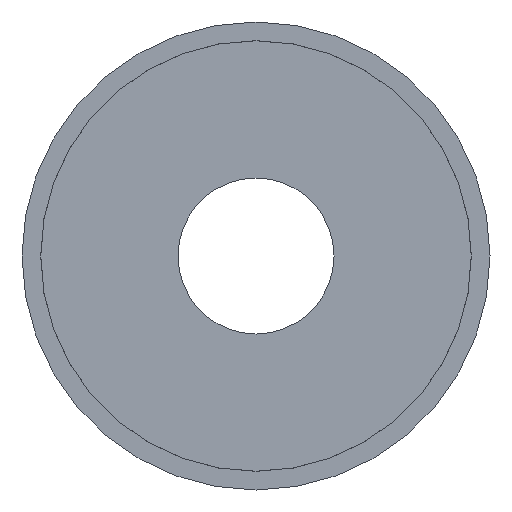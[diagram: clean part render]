
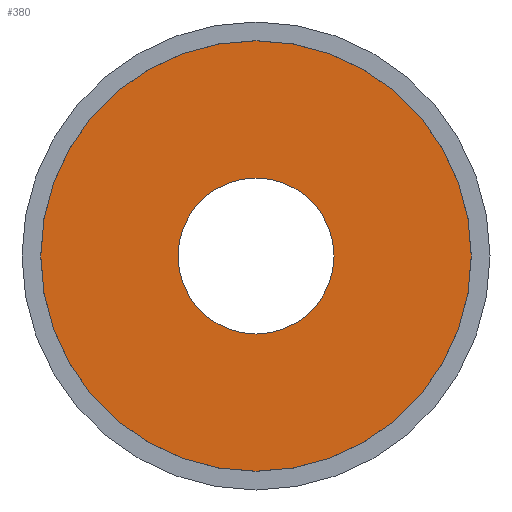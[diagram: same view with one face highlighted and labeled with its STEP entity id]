
A CAD part, front view. The second image highlights one B-rep face of the part: STEP entity #380.
In plain terms, the highlighted planar face has unit normal (0, -1, 0).
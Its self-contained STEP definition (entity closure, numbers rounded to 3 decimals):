
#3 = EDGE_CURVE ( 'NONE', #722, #521, #349, .T. ) ;
#48 = CARTESIAN_POINT ( 'NONE',  ( 0., -15., -34.49 ) ) ;
#99 = AXIS2_PLACEMENT_3D ( 'NONE', #711, #707, #467 ) ;
#102 = ORIENTED_EDGE ( 'NONE', *, *, #3, .T. ) ;
#110 = FACE_OUTER_BOUND ( 'NONE', #625, .T. ) ;
#174 = CARTESIAN_POINT ( 'NONE',  ( 0., -15., 0. ) ) ;
#197 = CIRCLE ( 'NONE', #336, 34.49 ) ;
#212 = CARTESIAN_POINT ( 'NONE',  ( 0., -15., 0. ) ) ;
#231 = DIRECTION ( 'NONE',  ( 0., -1., 0. ) ) ;
#268 = CARTESIAN_POINT ( 'NONE',  ( -37.5, -15., 0. ) ) ;
#284 = CIRCLE ( 'NONE', #390, 34.49 ) ;
#304 = ORIENTED_EDGE ( 'NONE', *, *, #562, .T. ) ;
#336 = AXIS2_PLACEMENT_3D ( 'NONE', #212, #579, #460 ) ;
#342 = FACE_BOUND ( 'NONE', #703, .T. ) ;
#349 = CIRCLE ( 'NONE', #842, 12.5 ) ;
#380 = ADVANCED_FACE ( 'NONE', ( #342, #110 ), #492, .T. ) ;
#390 = AXIS2_PLACEMENT_3D ( 'NONE', #586, #231, #876 ) ;
#391 = VERTEX_POINT ( 'NONE', #48 ) ;
#460 = DIRECTION ( 'NONE',  ( 0., 0., -1. ) ) ;
#463 = CIRCLE ( 'NONE', #99, 12.5 ) ;
#467 = DIRECTION ( 'NONE',  ( 0., 0., 1. ) ) ;
#492 = PLANE ( 'NONE',  #639 ) ;
#521 = VERTEX_POINT ( 'NONE', #653 ) ;
#535 = VERTEX_POINT ( 'NONE', #637 ) ;
#562 = EDGE_CURVE ( 'NONE', #391, #535, #197, .T. ) ;
#579 = DIRECTION ( 'NONE',  ( 0., -1., 0. ) ) ;
#586 = CARTESIAN_POINT ( 'NONE',  ( 0., -15., 0. ) ) ;
#609 = DIRECTION ( 'NONE',  ( 0., 0., 1. ) ) ;
#625 = EDGE_LOOP ( 'NONE', ( #304, #770 ) ) ;
#626 = EDGE_CURVE ( 'NONE', #521, #722, #463, .T. ) ;
#637 = CARTESIAN_POINT ( 'NONE',  ( 0., -15., 34.49 ) ) ;
#639 = AXIS2_PLACEMENT_3D ( 'NONE', #268, #712, #708 ) ;
#653 = CARTESIAN_POINT ( 'NONE',  ( 0., -15., 12.5 ) ) ;
#694 = DIRECTION ( 'NONE',  ( 0., 1., 0. ) ) ;
#695 = CARTESIAN_POINT ( 'NONE',  ( 0., -15., -12.5 ) ) ;
#703 = EDGE_LOOP ( 'NONE', ( #930, #102 ) ) ;
#707 = DIRECTION ( 'NONE',  ( 0., 1., 0. ) ) ;
#708 = DIRECTION ( 'NONE',  ( 0., 0., -1. ) ) ;
#711 = CARTESIAN_POINT ( 'NONE',  ( 0., -15., 0. ) ) ;
#712 = DIRECTION ( 'NONE',  ( 0., -1., 0. ) ) ;
#722 = VERTEX_POINT ( 'NONE', #695 ) ;
#770 = ORIENTED_EDGE ( 'NONE', *, *, #959, .T. ) ;
#842 = AXIS2_PLACEMENT_3D ( 'NONE', #174, #694, #609 ) ;
#876 = DIRECTION ( 'NONE',  ( 0., 0., -1. ) ) ;
#930 = ORIENTED_EDGE ( 'NONE', *, *, #626, .T. ) ;
#959 = EDGE_CURVE ( 'NONE', #535, #391, #284, .T. ) ;
